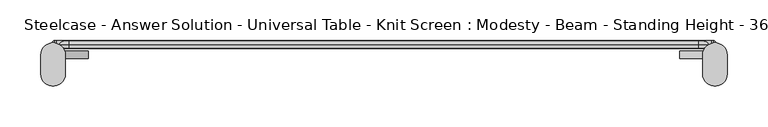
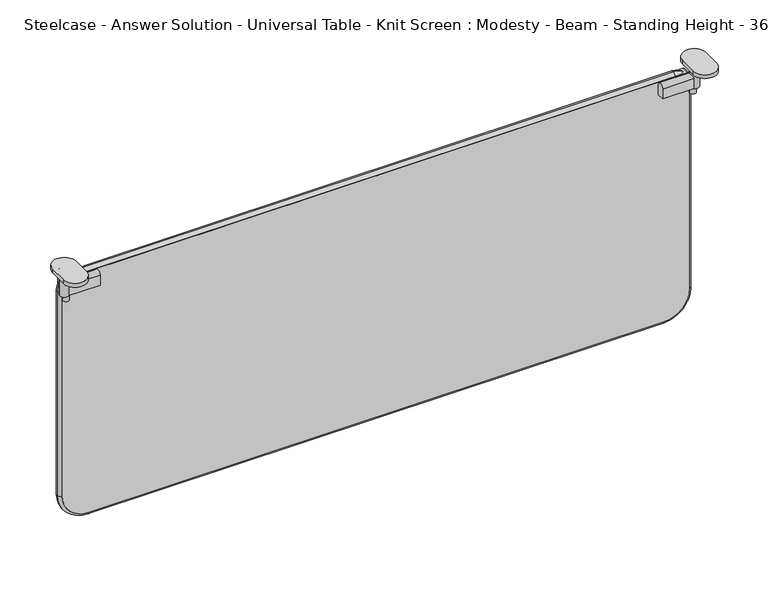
"""IFC4 building model written with IfcOpenShell, lengths in millimetres: furniture geometry, Steelcase - Answer Solution - Universal Table - Knit Screen : Modesty - Beam - Standing Height - 36in."""

from ifc_helpers import new_model, si_unit, point, frame, frame_2d, origin, place, context, project, spatial, polyline, circle_curve, ellipse_curve, trimmed, segment, composite_curve, outline, extrude, source, transform, mapped, element, save
from ifc_brep_helpers import plane_surface, cylinder_surface, revolved_surface, advanced_brep


def steelcase_answer_solution_universal_table_knit_screen_aa32706d(model_context):
    return source(origin(), model_context, "Body", "SolidModel", [
        extrude(outline(composite_curve([segment(polyline([(-29.128946, 747.6716837), (-29.128946, 761.0329841)]), True, "CONTINUOUS"), segment(trimmed(circle_curve(frame_2d((-24.4350465, 761.0329841)), 4.6938995), [point((-29.128946, 761.0329841))], [point((-19.7411469, 761.0329841))], False, "CARTESIAN"), True, "CONTINUOUS"), segment(polyline([(-19.7411469, 761.0329841), (-19.7411469, 747.6716837), (-29.128946, 747.6716837)]), True, "CONTINUOUS")], self_intersect=False)), frame((816.6167228, 0.0, 0.0), z_axis=(1.0, 0.0, 0.0), x_axis=(0.0, 1.0, 0.0)), (0.0, 0.0, 1.0), 43.5285515),
        extrude(outline(composite_curve([segment(trimmed(circle_curve(frame_2d((858.2143327, -24.4352196)), 3.96875), [point((862.1830827, -24.4352196))], [point((854.2455827, -24.4352196))], False, "CARTESIAN"), True, "CONTINUOUS"), segment(trimmed(circle_curve(frame_2d((858.2143327, -24.4352196)), 3.96875), [point((854.2455827, -24.4352196))], [point((862.1830827, -24.4352196))], False, "CARTESIAN"), True, "CONTINUOUS")], self_intersect=False)), frame((0.0, 0.0, 739.5915626), z_axis=(0.0, 0.0, 1.0), x_axis=(1.0, 0.0, 0.0)), (0.0, 0.0, 1.0), 8.0801211),
        extrude(outline(composite_curve([segment(trimmed(circle_curve(frame_2d((860.1452743, -24.4352196)), 5.8800133), [point((866.0252876, -24.4352196))], [point((854.265261, -24.4352196))], False, "CARTESIAN"), True, "CONTINUOUS"), segment(trimmed(circle_curve(frame_2d((860.1452743, -24.4352196)), 5.8800133), [point((854.265261, -24.4352196))], [point((866.0252876, -24.4352196))], False, "CARTESIAN"), True, "CONTINUOUS")], self_intersect=False)), frame((0.0, 0.0, 747.6716837), z_axis=(0.0, 0.0, 1.0), x_axis=(1.0, 0.0, 0.0)), (0.0, 0.0, 1.0), 34.3007611),
        extrude(outline(composite_curve([segment(polyline([(875.201332, -24.6349615), (875.201332, -48.0866189)]), True, "CONTINUOUS"), segment(trimmed(circle_curve(frame_2d((860.145565, -48.0866189)), 15.0557671), [point((875.201332, -48.0866189))], [point((845.0897979, -48.0866189))], False, "CARTESIAN"), True, "CONTINUOUS"), segment(polyline([(845.0897979, -48.0866189), (845.0897979, -24.6349615)]), True, "CONTINUOUS"), segment(trimmed(circle_curve(frame_2d((860.145565, -24.6349615)), 15.0557671), [point((845.0897979, -24.6349615))], [point((875.201332, -24.6349615))], False, "CARTESIAN"), True, "CONTINUOUS")], self_intersect=False)), frame((0.0, 0.0, 781.9724448), z_axis=(0.0, 0.0, 1.0), x_axis=(1.0, 0.0, 0.0)), (0.0, 0.0, 1.0), 5.4275552),
        extrude(outline(composite_curve([segment(polyline([(-29.128946, 747.6716837), (-29.128946, 761.0329841)]), True, "CONTINUOUS"), segment(trimmed(circle_curve(frame_2d((-24.4350465, 761.0329841)), 4.6938995), [point((-29.128946, 761.0329841))], [point((-19.7411469, 761.0329841))], False, "CARTESIAN"), True, "CONTINUOUS"), segment(polyline([(-19.7411469, 761.0329841), (-19.7411469, 747.6716837), (-29.128946, 747.6716837)]), True, "CONTINUOUS")], self_intersect=False)), frame((47.6108911, 0.0, 0.0), z_axis=(1.0, 0.0, 0.0), x_axis=(0.0, 1.0, 0.0)), (0.0, 0.0, 1.0), 43.5285515),
        extrude(outline(composite_curve([segment(trimmed(circle_curve(frame_2d((49.5418327, -24.4352196)), 3.96875), [point((45.5730827, -24.4352196))], [point((53.5105827, -24.4352196))], False, "CARTESIAN"), True, "CONTINUOUS"), segment(trimmed(circle_curve(frame_2d((49.5418327, -24.4352196)), 3.96875), [point((53.5105827, -24.4352196))], [point((45.5730827, -24.4352196))], False, "CARTESIAN"), True, "CONTINUOUS")], self_intersect=False)), frame((0.0, 0.0, 739.5915626), z_axis=(0.0, 0.0, 1.0), x_axis=(1.0, 0.0, 0.0)), (0.0, 0.0, 1.0), 8.0801211),
        extrude(outline(composite_curve([segment(trimmed(circle_curve(frame_2d((47.6108911, -24.4352196)), 5.8800133), [point((41.7308778, -24.4352196))], [point((53.4909043, -24.4352196))], False, "CARTESIAN"), True, "CONTINUOUS"), segment(trimmed(circle_curve(frame_2d((47.6108911, -24.4352196)), 5.8800133), [point((53.4909043, -24.4352196))], [point((41.7308778, -24.4352196))], False, "CARTESIAN"), True, "CONTINUOUS")], self_intersect=False)), frame((0.0, 0.0, 747.6716837), z_axis=(0.0, 0.0, 1.0), x_axis=(1.0, 0.0, 0.0)), (0.0, 0.0, 1.0), 34.3007611),
        extrude(outline(composite_curve([segment(trimmed(circle_curve(frame_2d((47.6106004, -24.6349615)), 15.0557671), [point((32.5548333, -24.6349615))], [point((62.6663674, -24.6349615))], False, "CARTESIAN"), True, "CONTINUOUS"), segment(polyline([(62.6663674, -24.6349615), (62.6663674, -48.0866189)]), True, "CONTINUOUS"), segment(trimmed(circle_curve(frame_2d((47.6106004, -48.0866189)), 15.0557671), [point((62.6663674, -48.0866189))], [point((32.5548333, -48.0866189))], False, "CARTESIAN"), True, "CONTINUOUS"), segment(polyline([(32.5548333, -48.0866189), (32.5548333, -24.6349615)]), True, "CONTINUOUS")], self_intersect=False)), frame((0.0, 0.0, 781.9724448), z_axis=(0.0, 0.0, 1.0), x_axis=(1.0, 0.0, 0.0)), (0.0, 0.0, 1.0), 5.4275552),
        extrude(outline(composite_curve([segment(trimmed(circle_curve(frame_2d((465.8734529, 825.1969049)), 33.0004615), [point((432.8729913, 825.1969049))], [point((465.8734529, 858.1973664))], False, "CARTESIAN"), True, "CONTINUOUS"), segment(polyline([(465.8734529, 858.1973664), (759.2143507, 858.1973664)]), True, "CONTINUOUS"), segment(trimmed(circle_curve(frame_2d((759.2143507, 855.3924906)), 2.8048758), [point((759.2143507, 858.1973664))], [point((762.0192266, 855.3924906))], False, "CARTESIAN"), True, "CONTINUOUS"), segment(polyline([(762.0192266, 855.3924906), (762.0192266, 51.8743664)]), True, "CONTINUOUS"), segment(trimmed(circle_curve(frame_2d((759.7036591, 51.8743664)), 2.3155675), [point((762.0192266, 51.8743664))], [point((759.7036591, 49.5587989))], False, "CARTESIAN"), True, "CONTINUOUS"), segment(polyline([(759.7036591, 49.5587989), (466.7900738, 49.5587989)]), True, "CONTINUOUS"), segment(trimmed(circle_curve(frame_2d((466.7900738, 83.4758814)), 33.9170825), [point((466.7900738, 49.5587989))], [point((432.8729913, 83.4758814))], False, "CARTESIAN"), True, "CONTINUOUS"), segment(polyline([(432.8729913, 83.4758814), (432.8729913, 825.1969049)]), True, "CONTINUOUS")], self_intersect=False)), frame((0.0, -16.5783031, 0.0), z_axis=(0.0, 1.0, 0.0), x_axis=(0.0, 0.0, 1.0)), (0.0, 0.0, 1.0), 9.6878455),
        advanced_brep(
        [(45.5730839, -11.7343804, 744.5906591), (66.9873664, -11.7343804, 766.0049416), (66.9873664, -6.8904577, 762.0192266), (49.5587989, -6.8904577, 744.5906591), (49.5587989, -16.5783031, 744.5906591), (66.9873664, -16.5783031, 762.0192266), (49.5587989, -6.8904577, 466.7900738), (45.5730839, -11.7343804, 466.7900738), (49.5587989, -16.5783031, 466.7900738), (83.4758814, -11.7343804, 428.8872763), (83.4758814, -6.8904577, 432.8729913), (83.4758814, -16.5783031, 432.8729913), (825.1969049, -6.8904577, 432.8729913), (825.1969049, -11.7343804, 428.8872763), (825.1969049, -16.5783031, 432.8729913), (862.1830815, -11.7343804, 465.8734529), (858.1973664, -6.8904577, 465.8734529), (858.1973664, -16.5783031, 465.8734529), (858.1973664, -6.8904577, 744.1013507), (862.1830815, -11.7343804, 744.1013507), (858.1973664, -16.5783031, 744.1013507), (840.2794906, -11.7343804, 766.0049416), (840.2794906, -6.8904577, 762.0192266), (840.2794906, -16.5783031, 762.0192266)],
        [
            (0, 1, circle_curve(frame((66.9873664, -11.7343804, 744.5906591), z_axis=(0.0, 1.0, 0.0), x_axis=(0.0, 0.0, 1.0)), 21.4142825)),
            (1, 2, circle_curve(frame((66.9873664, -11.7343804, 761.0686238), z_axis=(-1.0, 0.0, 0.0), x_axis=(0.0, 0.0, 1.0)), 4.9363178)),
            (2, 3, circle_curve(frame((66.9873664, -6.8904577, 744.5906591), z_axis=(0.0, -1.0, 0.0), x_axis=(0.0, 0.0, 1.0)), 17.4285675)),
            (3, 0, circle_curve(frame((50.5094016, -11.7343804, 744.5906591), z_axis=(0.0, 0.0, 1.0), x_axis=(-1.0, 0.0, 0.0)), 4.9363178)),
            (4, 5, circle_curve(frame((66.9873664, -16.5783031, 744.5906591), z_axis=(0.0, 1.0, 0.0), x_axis=(0.0, 0.0, 1.0)), 17.4285675)),
            (5, 1, circle_curve(frame((66.9873664, -11.7343804, 761.0686238), z_axis=(-1.0, 0.0, 0.0), x_axis=(0.0, 0.0, 1.0)), 4.9363178)),
            (0, 4, circle_curve(frame((50.5094016, -11.7343804, 744.5906591), z_axis=(0.0, 0.0, 1.0), x_axis=(-1.0, 0.0, 0.0)), 4.9363178)),
            (2, 5),
            (4, 3),
            (3, 6),
            (6, 7, circle_curve(frame((50.5094016, -11.7343804, 466.7900738), z_axis=(0.0, 0.0, 1.0), x_axis=(-1.0, 0.0, 0.0)), 4.9363178)),
            (7, 0),
            (7, 8, circle_curve(frame((50.5094016, -11.7343804, 466.7900738), z_axis=(0.0, 0.0, 1.0), x_axis=(-1.0, 0.0, 0.0)), 4.9363178)),
            (8, 4),
            (8, 6),
            (9, 7, circle_curve(frame((83.4758814, -11.7343804, 466.7900738), z_axis=(0.0, 1.0, 0.0), x_axis=(-1.0, 0.0, 0.0)), 37.9027975)),
            (6, 10, circle_curve(frame((83.4758814, -6.8904577, 466.7900738), z_axis=(0.0, -1.0, 0.0), x_axis=(-1.0, 0.0, 0.0)), 33.9170825)),
            (10, 9, circle_curve(frame((83.4758814, -11.7343804, 433.823594), z_axis=(-1.0, 0.0, 0.0), x_axis=(0.0, 0.0, -1.0)), 4.9363178)),
            (11, 8, circle_curve(frame((83.4758814, -16.5783031, 466.7900738), z_axis=(0.0, 1.0, 0.0), x_axis=(-1.0, 0.0, 0.0)), 33.9170825)),
            (9, 11, circle_curve(frame((83.4758814, -11.7343804, 433.823594), z_axis=(-1.0, 0.0, 0.0), x_axis=(0.0, 0.0, -1.0)), 4.9363178)),
            (11, 10),
            (10, 12),
            (12, 13, circle_curve(frame((825.1969049, -11.7343804, 433.823594), z_axis=(-1.0, 0.0, 0.0), x_axis=(0.0, 0.0, -1.0)), 4.9363178)),
            (13, 9),
            (13, 14, circle_curve(frame((825.1969049, -11.7343804, 433.823594), z_axis=(-1.0, 0.0, 0.0), x_axis=(0.0, 0.0, -1.0)), 4.9363178)),
            (14, 11),
            (14, 12),
            (15, 13, circle_curve(frame((825.1969049, -11.7343804, 465.8734529), z_axis=(0.0, 1.0, 0.0), x_axis=(0.0, 0.0, -1.0)), 36.9861766)),
            (12, 16, circle_curve(frame((825.1969049, -6.8904577, 465.8734529), z_axis=(0.0, -1.0, 0.0), x_axis=(0.0, 0.0, -1.0)), 33.0004615)),
            (16, 15, circle_curve(frame((857.2467637, -11.7343804, 465.8734529), z_axis=(0.0, 0.0, -1.0), x_axis=(1.0, 0.0, 0.0)), 4.9363178)),
            (17, 14, circle_curve(frame((825.1969049, -16.5783031, 465.8734529), z_axis=(0.0, 1.0, 0.0), x_axis=(0.0, 0.0, -1.0)), 33.0004615)),
            (15, 17, circle_curve(frame((857.2467637, -11.7343804, 465.8734529), z_axis=(0.0, 0.0, -1.0), x_axis=(1.0, 0.0, 0.0)), 4.9363178)),
            (17, 16),
            (16, 18),
            (18, 19, circle_curve(frame((857.2467637, -11.7343804, 744.1013507), z_axis=(0.0, 0.0, -1.0), x_axis=(1.0, 0.0, 0.0)), 4.9363178)),
            (19, 15),
            (19, 20, circle_curve(frame((857.2467637, -11.7343804, 744.1013507), z_axis=(0.0, 0.0, -1.0), x_axis=(1.0, 0.0, 0.0)), 4.9363178)),
            (20, 17),
            (20, 18),
            (21, 19, circle_curve(frame((840.2794906, -11.7343804, 744.1013507), z_axis=(0.0, 1.0, 0.0), x_axis=(1.0, 0.0, 0.0)), 21.9035909)),
            (18, 22, circle_curve(frame((840.2794906, -6.8904577, 744.1013507), z_axis=(0.0, -1.0, 0.0), x_axis=(1.0, 0.0, 0.0)), 17.9178758)),
            (22, 21, circle_curve(frame((840.2794906, -11.7343804, 761.0686238), z_axis=(1.0, 0.0, 0.0), x_axis=(0.0, 0.0, 1.0)), 4.9363178)),
            (23, 20, circle_curve(frame((840.2794906, -16.5783031, 744.1013507), z_axis=(0.0, 1.0, 0.0), x_axis=(1.0, 0.0, 0.0)), 17.9178758)),
            (21, 23, circle_curve(frame((840.2794906, -11.7343804, 761.0686238), z_axis=(1.0, 0.0, 0.0), x_axis=(0.0, 0.0, 1.0)), 4.9363178)),
            (23, 22),
            (22, 2),
            (1, 21),
            (5, 23),
        ],
        [
            revolved_surface(trimmed(ellipse_curve(frame((66.9873664, -11.7343804, 761.0686238), z_axis=(1.0, 0.0, 0.0), x_axis=(0.0, 0.0, 1.0)), 4.9363178, 4.9363178), [point((66.9873664, -6.8904577, 762.0192266))], [point((66.9873664, -11.7343804, 766.0049416))], True, "CARTESIAN"), (66.9873664, -11.7343804, 744.5906591), (0.0, -1.0, 0.0)),
            revolved_surface(trimmed(ellipse_curve(frame((66.9873664, -11.7343804, 761.0686238), z_axis=(1.0, 0.0, 0.0), x_axis=(0.0, 0.0, 1.0)), 4.9363178, 4.9363178), [point((66.9873664, -11.7343804, 766.0049416))], [point((66.9873664, -16.5783031, 762.0192266))], True, "CARTESIAN"), (66.9873664, -11.7343804, 744.5906591), (0.0, -1.0, 0.0)),
            revolved_surface(polyline([(66.9873664, -16.5783031, 762.0192266), (66.9873664, -6.8904577, 762.0192266)]), (66.9873664, -11.7343804, 744.5906591), (0.0, -1.0, 0.0)),
            cylinder_surface(frame((50.5094016, -11.7343804, 744.5906591), z_axis=(0.0, 0.0, 1.0), x_axis=(-1.0, 0.0, 0.0)), 4.9363178),
            plane_surface(frame((49.5587989, -16.5783031, 744.5906591), z_axis=(1.0, 0.0, 0.0), x_axis=(0.0, 0.0, -1.0))),
            revolved_surface(trimmed(ellipse_curve(frame((50.5094016, -11.7343804, 466.7900738), z_axis=(0.0, 0.0, 1.0), x_axis=(-1.0, 0.0, 0.0)), 4.9363178, 4.9363178), [point((49.5587989, -6.8904577, 466.7900738))], [point((45.5730839, -11.7343804, 466.7900738))], True, "CARTESIAN"), (83.4758814, -11.7343804, 466.7900738), (0.0, -1.0, 0.0)),
            revolved_surface(trimmed(ellipse_curve(frame((50.5094016, -11.7343804, 466.7900738), z_axis=(0.0, 0.0, 1.0), x_axis=(-1.0, 0.0, 0.0)), 4.9363178, 4.9363178), [point((45.5730839, -11.7343804, 466.7900738))], [point((49.5587989, -16.5783031, 466.7900738))], True, "CARTESIAN"), (83.4758814, -11.7343804, 466.7900738), (0.0, -1.0, 0.0)),
            revolved_surface(polyline([(49.558798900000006, -16.5783031, 466.7900738), (49.558798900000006, -6.8904577, 466.7900738)]), (83.4758814, -11.7343804, 466.7900738), (0.0, -1.0, 0.0)),
            cylinder_surface(frame((83.4758814, -11.7343804, 433.823594), z_axis=(-1.0, 0.0, 0.0), x_axis=(0.0, 0.0, -1.0)), 4.9363178),
            plane_surface(frame((83.4758814, -16.5783031, 432.8729913), z_axis=(0.0, 0.0, 1.0), x_axis=(1.0, 0.0, 0.0))),
            revolved_surface(trimmed(ellipse_curve(frame((825.1969049, -11.7343804, 433.823594), z_axis=(-1.0, 0.0, 0.0), x_axis=(0.0, 0.0, -1.0)), 4.9363178, 4.9363178), [point((825.1969049, -6.8904577, 432.8729913))], [point((825.1969049, -11.7343804, 428.8872763))], True, "CARTESIAN"), (825.1969049, -11.7343804, 465.8734529), (0.0, -1.0, 0.0)),
            revolved_surface(trimmed(ellipse_curve(frame((825.1969049, -11.7343804, 433.823594), z_axis=(-1.0, 0.0, 0.0), x_axis=(0.0, 0.0, -1.0)), 4.9363178, 4.9363178), [point((825.1969049, -11.7343804, 428.8872763))], [point((825.1969049, -16.5783031, 432.8729913))], True, "CARTESIAN"), (825.1969049, -11.7343804, 465.8734529), (0.0, -1.0, 0.0)),
            revolved_surface(polyline([(825.1969049, -16.5783031, 432.87299140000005), (825.1969049, -6.8904577, 432.87299140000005)]), (825.1969049, -11.7343804, 465.8734529), (0.0, -1.0, 0.0)),
            cylinder_surface(frame((857.2467637, -11.7343804, 465.8734529), z_axis=(0.0, 0.0, -1.0), x_axis=(1.0, 0.0, 0.0)), 4.9363178),
            plane_surface(frame((858.1973664, -16.5783031, 465.8734529), z_axis=(-1.0, 0.0, 0.0), x_axis=(0.0, 0.0, 1.0))),
            revolved_surface(trimmed(ellipse_curve(frame((857.2467637, -11.7343804, 744.1013507), z_axis=(0.0, 0.0, -1.0), x_axis=(1.0, 0.0, 0.0)), 4.9363178, 4.9363178), [point((858.1973664, -6.8904577, 744.1013507))], [point((862.1830815, -11.7343804, 744.1013507))], True, "CARTESIAN"), (840.2794906, -11.7343804, 744.1013507), (0.0, -1.0, 0.0)),
            revolved_surface(trimmed(ellipse_curve(frame((857.2467637, -11.7343804, 744.1013507), z_axis=(0.0, 0.0, -1.0), x_axis=(1.0, 0.0, 0.0)), 4.9363178, 4.9363178), [point((862.1830815, -11.7343804, 744.1013507))], [point((858.1973664, -16.5783031, 744.1013507))], True, "CARTESIAN"), (840.2794906, -11.7343804, 744.1013507), (0.0, -1.0, 0.0)),
            revolved_surface(polyline([(858.1973664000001, -16.5783031, 744.1013507), (858.1973664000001, -6.8904577, 744.1013507)]), (840.2794906, -11.7343804, 744.1013507), (0.0, -1.0, 0.0)),
            cylinder_surface(frame((840.2794906, -11.7343804, 761.0686238), z_axis=(1.0, 0.0, 0.0), x_axis=(0.0, 0.0, 1.0)), 4.9363178),
            plane_surface(frame((840.2794906, -16.5783031, 762.0192266), z_axis=(0.0, 0.0, -1.0), x_axis=(-1.0, 0.0, 0.0))),
        ],
        [
            (0, [[1, 2, 3, 4]]),
            (1, [[5, 6, -1, 7]]),
            (2, [[-3, 8, -5, 9]]),
            (3, [[-4, 10, 11, 12]]),
            (3, [[-7, -12, 13, 14]]),
            (4, [[-9, -14, 15, -10]]),
            (5, [[16, -11, 17, 18]]),
            (6, [[19, -13, -16, 20]]),
            (7, [[-17, -15, -19, 21]]),
            (8, [[-18, 22, 23, 24]]),
            (8, [[-20, -24, 25, 26]]),
            (9, [[-21, -26, 27, -22]]),
            (10, [[28, -23, 29, 30]]),
            (11, [[31, -25, -28, 32]]),
            (12, [[-29, -27, -31, 33]]),
            (13, [[-30, 34, 35, 36]]),
            (13, [[-32, -36, 37, 38]]),
            (14, [[-33, -38, 39, -34]]),
            (15, [[40, -35, 41, 42]]),
            (16, [[43, -37, -40, 44]]),
            (17, [[-41, -39, -43, 45]]),
            (18, [[-42, 46, -2, 47]]),
            (18, [[-44, -47, -6, 48]]),
            (19, [[-45, -48, -8, -46]]),
        ],
    ),
    ])


if __name__ == "__main__":
    model = new_model("IFC4")
    model_context = context("Model", 3, world=origin())
    ifc_project = project(units=[si_unit("LENGTHUNIT", "METRE", prefix="MILLI")], contexts=[model_context])
    site = spatial("IfcSite", under=ifc_project)
    building = spatial("IfcBuilding", under=site)
    placement = place(None, origin())
    steelcase_answer_solution_universal_table_knit_screen_shape = steelcase_answer_solution_universal_table_knit_screen_aa32706d(model_context)
    element("IfcFurniture", 1, ObjectType="Steelcase - Answer Solution - Universal Table - Knit Screen : Modesty - Beam - Standing Height - 36in", at=placement, inside=building, context=model_context, shape_type="MappedRepresentation", body=[
        mapped(steelcase_answer_solution_universal_table_knit_screen_shape, transform((0.0, 0.0, 0.0), x_axis=(1.0, 0.0, 0.0), y_axis=(0.0, 1.0, 0.0), z_axis=(0.0, 0.0, 1.0))),
    ])
    save(model, "model.ifc")
